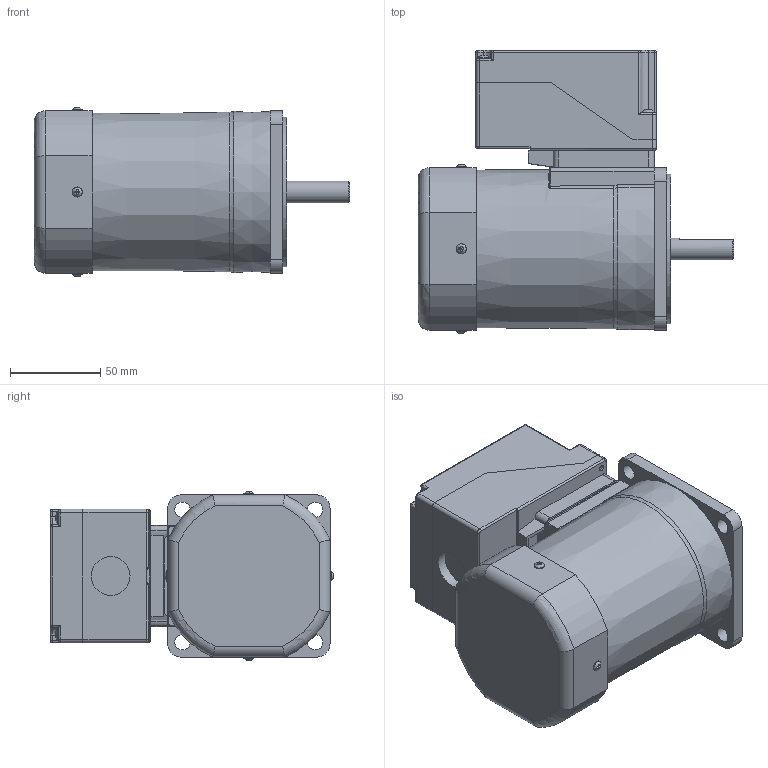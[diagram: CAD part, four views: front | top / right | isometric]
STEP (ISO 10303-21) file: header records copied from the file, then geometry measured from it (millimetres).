
FILE_DESCRIPTION(/* description */ (''),/* implementation_level */ '2;1');
FILE_NAME(/* name */ 'E:\도면작업\2016\0704) 미주향 SG 도면\3D MOTOR\TERMINAL BOX TYPE\INDUCTION TERMINAL BOX\SG9I90D_-T2.stp',/* time_stamp */ '2017-01-23T19:31:39+09:00',/* author */ ('jy-jung'),/* organization */ (''),/* preprocessor_version */ 'ST-DEVELOPER v15.6',/* originating_system */ 'Autodesk Inventor 2015',/* authorisation */ '');
FILE_SCHEMA (('AUTOMOTIVE_DESIGN { 1 0 10303 214 3 1 1 }'));
Length unit declared in the file: millimetre
Products named in the file (1): 부품2
Bounding box: 174.8 x 156.95 x 93.89 mm (x, y, z)
Volume: 1026273.4 mm3; surface area: 143047.7 mm2
Topology: 1 solids, 9 shells, 943 faces, 2486 edges, 1589 vertices
Faces by surface type: plane 499, cylinder 306, bspline 57, torus 45, cone 24, sphere 12
Full cylindrical faces by diameter (mm): 2.5 x4, 3 x8, 3.2 x3, 3.4 x1, 3.5 x4, 4.2 x1, 4.5 x8, 5.5 x8, 5.6 x4, 6.9 x4, 8.5 x4, 12 x1, 21.5 x1, 40 x1, 83 x1
Entity records: 31381 total; most frequent: CARTESIAN_POINT 7630, ORIENTED_EDGE 4702, DIRECTION 4657, EDGE_CURVE 2351, AXIS2_PLACEMENT_3D 1643, VERTEX_POINT 1571, LINE 1371, VECTOR 1371
